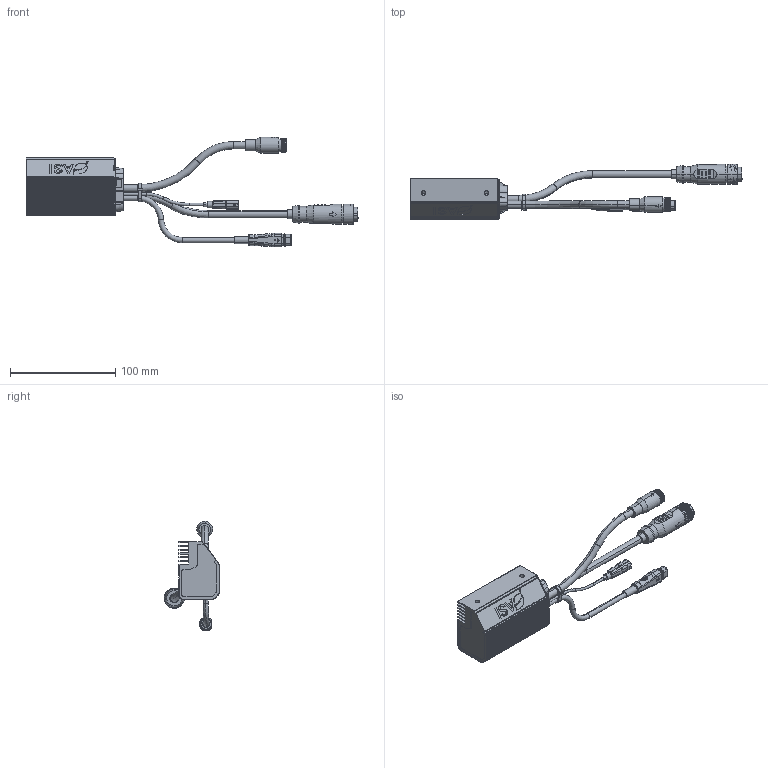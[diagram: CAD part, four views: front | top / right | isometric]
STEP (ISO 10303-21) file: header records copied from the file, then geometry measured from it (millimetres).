
FILE_DESCRIPTION (( 'STEP AP214' ), '1' );
FILE_NAME ('060-001034-03 - INTERFACE, BAC855 STANDARD WATERPROOF.STEP', '2024-07-26T15:21:15', ( '' ), ( '' ), 'SwSTEP 2.0', 'SolidWorks 2021', '' );
FILE_SCHEMA (( 'AUTOMOTIVE_DESIGN' ));
Length unit declared in the file: millimetre
Products named in the file (21): Part3^100-001076_PART-NUMBER; 440-000127_440-000127; L615AG_PART-NUMBER; 440-000159_Swept Cable; Z1513A Accessory Cable_BAC 855 Swept Profile; 20-001031_200-001744-002; 200-001772 - BAC855 END CAP_STANDARD; Z609F Torque Cable_Swept Cable; 21-000009 - Potted control board LED installation 2020-03-32_21-000009; L1019 Motor Cable_Swept Profile; 84-000061_BAC800; EPOXY POTTING^100-001076; 440-000161_Swept Cable; 440-000130_440-000130; 440-000162_Swept Cable; 440-000160_ Swept Cable; 420-001000; Part1^100-001076_PART-NUMBER; 060-001034-03 - INTERFACE, BAC855 STANDARD WATERPROOF; L615A Battery Cable_Swept Profile; 10-000697-Potting_FOR KTM HEATSINK
Assembly tree (18 placements, depth 3):
  84-000061_BAC800
  Part1^100-001076_PART-NUMBER
  060-001034-03 - INTERFACE, BAC855 STANDARD WATERPROOF
    20-001031_200-001744-002
    21-000009 - Potted control board LED installation 2020-03-32_21-000009
    10-000697-Potting_FOR KTM HEATSINK
    440-000162_Swept Cable
      440-000127_440-000127
      Z609F Torque Cable_Swept Cable
    440-000160_ Swept Cable
      L615AG_PART-NUMBER
      L615A Battery Cable_Swept Profile
    440-000161_Swept Cable
      440-000130_440-000130
      Z1513A Accessory Cable_BAC 855 Swept Profile
    440-000159_Swept Cable
      420-001000
      L1019 Motor Cable_Swept Profile
    Part3^100-001076_PART-NUMBER
    200-001772 - BAC855 END CAP_STANDARD
    EPOXY POTTING^100-001076
Bounding box: 315.8 x 52.66 x 104.53 mm (x, y, z)
Volume: 198274 mm3; surface area: 89062.7 mm2
Topology: 29 solids, 35 shells, 2919 faces, 7651 edges, 4939 vertices
Faces by surface type: plane 1437, cylinder 994, cone 234, bspline 131, torus 121, sphere 2
Entity records: 101682 total; most frequent: CARTESIAN_POINT 27572, ORIENTED_EDGE 15260, DIRECTION 15118, EDGE_CURVE 7630, AXIS2_PLACEMENT_3D 5402, VERTEX_POINT 4937, VECTOR 4314, LINE 4314
